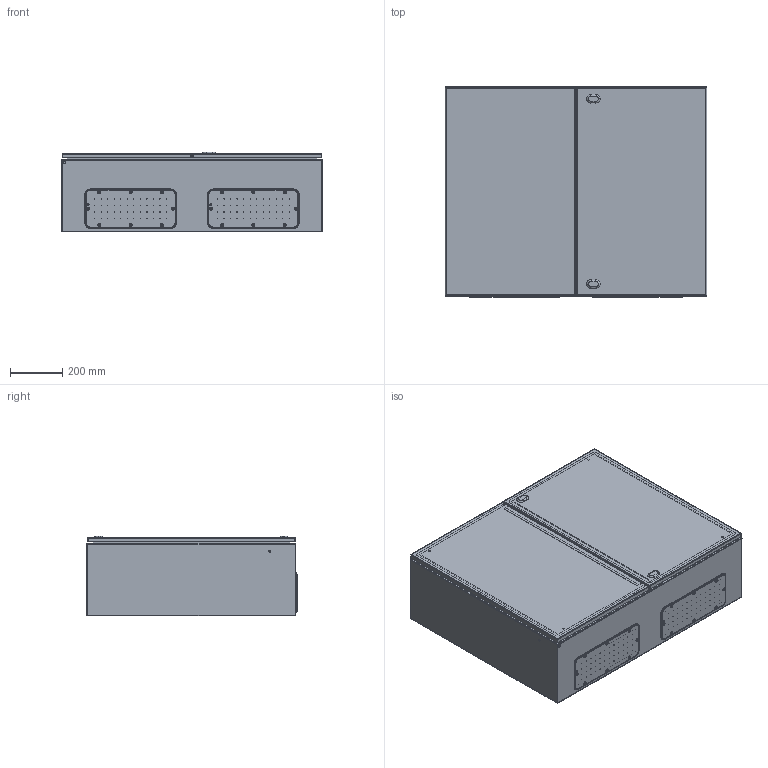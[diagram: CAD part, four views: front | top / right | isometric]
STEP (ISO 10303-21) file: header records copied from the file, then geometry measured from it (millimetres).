
FILE_DESCRIPTION (( 'STEP AP203' ), '1' );
FILE_NAME ('EC100830.STEP', '2022-10-25T06:49:52', ( '' ), ( '' ), 'SwSTEP 2.0', 'SolidWorks 2021', '' );
FILE_SCHEMA (( 'CONFIG_CONTROL_DESIGN' ));
Length unit declared in the file: millimetre
Products named in the file (8): AR_ECOR_chiusura_std_STD; AR_ECOR_flangia IC_04; AR_ECOR_porta_IB_1000x0800; AR_ECOR_montaggio_porta_IB_1000x0800; AR_ECOR_Piastra_22; AR_ECOR_involucro_1000x0800x0300; EC100830; AR_ECOR_porta_CB_1000x0800
Assembly tree (9 placements, depth 3):
  EC100830
    AR_ECOR_involucro_1000x0800x0300
    AR_ECOR_montaggio_porta_IB_1000x0800
      AR_ECOR_porta_IB_1000x0800
      AR_ECOR_chiusura_std_STD  x2
    AR_ECOR_flangia IC_04  x2
    AR_ECOR_Piastra_22
    AR_ECOR_porta_CB_1000x0800
Bounding box: 1000 x 804 x 305 mm (x, y, z)
Volume: 6658582.7 mm3; surface area: 7397278.2 mm2
Topology: 8 solids, 8 shells, 1371 faces, 3399 edges, 2154 vertices
Faces by surface type: cylinder 671, plane 430, cone 112, torus 86, bspline 52, sphere 20
Entity records: 33768 total; most frequent: CARTESIAN_POINT 6609, DIRECTION 5807, ORIENTED_EDGE 5240, EDGE_CURVE 2620, AXIS2_PLACEMENT_3D 2265, VERTEX_POINT 1672, EDGE_LOOP 1398, LINE 1277
